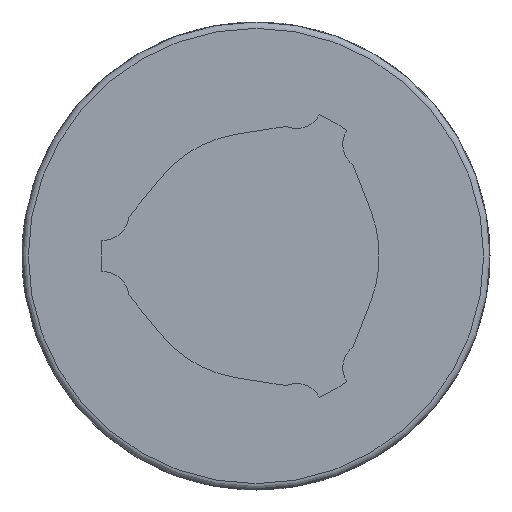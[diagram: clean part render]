
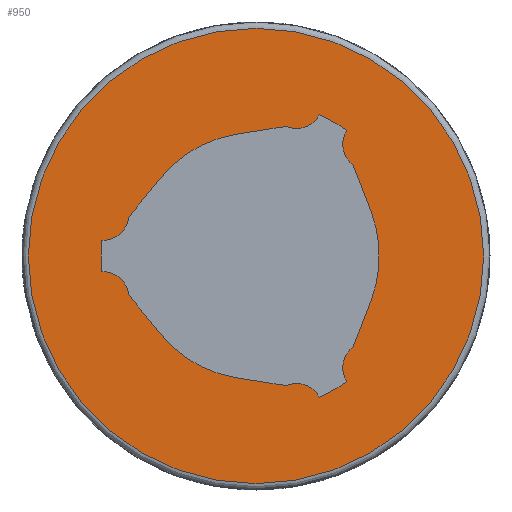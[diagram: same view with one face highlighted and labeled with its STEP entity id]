
A CAD part, left-side view. The second image highlights one B-rep face of the part: STEP entity #950.
In plain terms, the highlighted planar face has unit normal (-1, 0, 0).
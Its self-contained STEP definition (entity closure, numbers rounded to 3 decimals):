
#48=PLANE('',#1057);
#92=LINE('',#1550,#162);
#93=LINE('',#1559,#163);
#94=LINE('',#1563,#164);
#95=LINE('',#1571,#165);
#96=LINE('',#1575,#166);
#97=LINE('',#1583,#167);
#162=VECTOR('',#1255,1000.);
#163=VECTOR('',#1262,1000.);
#164=VECTOR('',#1265,1000.);
#165=VECTOR('',#1272,1000.);
#166=VECTOR('',#1275,1000.);
#167=VECTOR('',#1282,1000.);
#310=ORIENTED_EDGE('',*,*,#528,.F.);
#311=ORIENTED_EDGE('',*,*,#529,.T.);
#312=ORIENTED_EDGE('',*,*,#530,.F.);
#313=ORIENTED_EDGE('',*,*,#531,.T.);
#314=ORIENTED_EDGE('',*,*,#532,.F.);
#315=ORIENTED_EDGE('',*,*,#533,.T.);
#316=ORIENTED_EDGE('',*,*,#534,.T.);
#317=ORIENTED_EDGE('',*,*,#535,.T.);
#318=ORIENTED_EDGE('',*,*,#536,.F.);
#319=ORIENTED_EDGE('',*,*,#537,.T.);
#320=ORIENTED_EDGE('',*,*,#538,.F.);
#321=ORIENTED_EDGE('',*,*,#539,.T.);
#322=ORIENTED_EDGE('',*,*,#540,.T.);
#323=ORIENTED_EDGE('',*,*,#541,.T.);
#324=ORIENTED_EDGE('',*,*,#542,.F.);
#325=ORIENTED_EDGE('',*,*,#543,.T.);
#326=ORIENTED_EDGE('',*,*,#544,.F.);
#327=ORIENTED_EDGE('',*,*,#545,.T.);
#328=ORIENTED_EDGE('',*,*,#546,.T.);
#528=EDGE_CURVE('',#646,#646,#728,.T.);
#529=EDGE_CURVE('',#647,#648,#92,.T.);
#530=EDGE_CURVE('',#649,#648,#729,.T.);
#531=EDGE_CURVE('',#649,#650,#730,.T.);
#532=EDGE_CURVE('',#651,#650,#731,.T.);
#533=EDGE_CURVE('',#651,#652,#93,.T.);
#534=EDGE_CURVE('',#652,#653,#732,.T.);
#535=EDGE_CURVE('',#653,#654,#94,.T.);
#536=EDGE_CURVE('',#655,#654,#733,.T.);
#537=EDGE_CURVE('',#655,#656,#734,.T.);
#538=EDGE_CURVE('',#657,#656,#735,.T.);
#539=EDGE_CURVE('',#657,#658,#95,.T.);
#540=EDGE_CURVE('',#658,#659,#736,.T.);
#541=EDGE_CURVE('',#659,#660,#96,.T.);
#542=EDGE_CURVE('',#661,#660,#737,.T.);
#543=EDGE_CURVE('',#661,#662,#738,.T.);
#544=EDGE_CURVE('',#663,#662,#739,.T.);
#545=EDGE_CURVE('',#663,#664,#97,.T.);
#546=EDGE_CURVE('',#664,#647,#740,.T.);
#646=VERTEX_POINT('',#1549);
#647=VERTEX_POINT('',#1551);
#648=VERTEX_POINT('',#1552);
#649=VERTEX_POINT('',#1554);
#650=VERTEX_POINT('',#1556);
#651=VERTEX_POINT('',#1558);
#652=VERTEX_POINT('',#1560);
#653=VERTEX_POINT('',#1562);
#654=VERTEX_POINT('',#1564);
#655=VERTEX_POINT('',#1566);
#656=VERTEX_POINT('',#1568);
#657=VERTEX_POINT('',#1570);
#658=VERTEX_POINT('',#1572);
#659=VERTEX_POINT('',#1574);
#660=VERTEX_POINT('',#1576);
#661=VERTEX_POINT('',#1578);
#662=VERTEX_POINT('',#1580);
#663=VERTEX_POINT('',#1582);
#664=VERTEX_POINT('',#1584);
#728=CIRCLE('',#1058,18.);
#729=CIRCLE('',#1059,2.06);
#730=CIRCLE('',#1060,12.25);
#731=CIRCLE('',#1061,2.06);
#732=CIRCLE('',#1062,9.75);
#733=CIRCLE('',#1063,2.06);
#734=CIRCLE('',#1064,12.25);
#735=CIRCLE('',#1065,2.06);
#736=CIRCLE('',#1066,9.75);
#737=CIRCLE('',#1067,2.06);
#738=CIRCLE('',#1068,12.25);
#739=CIRCLE('',#1069,2.06);
#740=CIRCLE('',#1070,9.75);
#783=EDGE_LOOP('',(#310));
#784=EDGE_LOOP('',(#311,#312,#313,#314,#315,#316,#317,#318,#319,#320,#321,
#322,#323,#324,#325,#326,#327,#328));
#851=FACE_BOUND('',#783,.T.);
#852=FACE_BOUND('',#784,.T.);
#950=ADVANCED_FACE('',(#851,#852),#48,.F.);
#1057=AXIS2_PLACEMENT_3D('',#1547,#1251,#1252);
#1058=AXIS2_PLACEMENT_3D('',#1548,#1253,#1254);
#1059=AXIS2_PLACEMENT_3D('',#1553,#1256,#1257);
#1060=AXIS2_PLACEMENT_3D('',#1555,#1258,#1259);
#1061=AXIS2_PLACEMENT_3D('',#1557,#1260,#1261);
#1062=AXIS2_PLACEMENT_3D('',#1561,#1263,#1264);
#1063=AXIS2_PLACEMENT_3D('',#1565,#1266,#1267);
#1064=AXIS2_PLACEMENT_3D('',#1567,#1268,#1269);
#1065=AXIS2_PLACEMENT_3D('',#1569,#1270,#1271);
#1066=AXIS2_PLACEMENT_3D('',#1573,#1273,#1274);
#1067=AXIS2_PLACEMENT_3D('',#1577,#1276,#1277);
#1068=AXIS2_PLACEMENT_3D('',#1579,#1278,#1279);
#1069=AXIS2_PLACEMENT_3D('',#1581,#1280,#1281);
#1070=AXIS2_PLACEMENT_3D('',#1585,#1283,#1284);
#1251=DIRECTION('',(1.,0.,0.));
#1252=DIRECTION('',(0.,1.,0.));
#1253=DIRECTION('',(1.,0.,0.));
#1254=DIRECTION('',(0.,1.,0.));
#1255=DIRECTION('',(0.,-0.988,0.156));
#1256=DIRECTION('',(1.,0.,0.));
#1257=DIRECTION('',(0.,0.,-1.));
#1258=DIRECTION('',(1.,0.,0.));
#1259=DIRECTION('',(0.,0.,-1.));
#1260=DIRECTION('',(1.,0.,0.));
#1261=DIRECTION('',(0.,0.,-1.));
#1262=DIRECTION('',(0.,-0.358,-0.934));
#1263=DIRECTION('',(1.,0.,0.));
#1264=DIRECTION('',(0.,0.,-1.));
#1265=DIRECTION('',(0.,0.358,-0.934));
#1266=DIRECTION('',(1.,0.,0.));
#1267=DIRECTION('',(0.,0.,-1.));
#1268=DIRECTION('',(1.,0.,0.));
#1269=DIRECTION('',(0.,0.,-1.));
#1270=DIRECTION('',(1.,0.,0.));
#1271=DIRECTION('',(0.,0.,-1.));
#1272=DIRECTION('',(0.,0.988,0.156));
#1273=DIRECTION('',(1.,0.,0.));
#1274=DIRECTION('',(0.,0.,-1.));
#1275=DIRECTION('',(0.,0.629,0.777));
#1276=DIRECTION('',(1.,0.,0.));
#1277=DIRECTION('',(0.,0.,-1.));
#1278=DIRECTION('',(1.,0.,0.));
#1279=DIRECTION('',(0.,0.,-1.));
#1280=DIRECTION('',(1.,0.,0.));
#1281=DIRECTION('',(0.,0.,-1.));
#1282=DIRECTION('',(0.,-0.629,0.777));
#1283=DIRECTION('',(1.,0.,0.));
#1284=DIRECTION('',(0.,0.,-1.));
#1547=CARTESIAN_POINT('',(0.,0.,0.));
#1548=CARTESIAN_POINT('',(0.,0.,0.));
#1549=CARTESIAN_POINT('',(0.,18.,0.));
#1550=CARTESIAN_POINT('',(0.,1.525,9.63));
#1551=CARTESIAN_POINT('',(0.,1.525,9.63));
#1552=CARTESIAN_POINT('',(0.,-2.38,10.249));
#1553=CARTESIAN_POINT('',(0.,-3.198,12.139));
#1554=CARTESIAN_POINT('',(0.,-5.018,11.175));
#1555=CARTESIAN_POINT('',(0.,0.,0.));
#1556=CARTESIAN_POINT('',(0.,-7.169,9.933));
#1557=CARTESIAN_POINT('',(0.,-8.914,8.839));
#1558=CARTESIAN_POINT('',(0.,-7.685,7.185));
#1559=CARTESIAN_POINT('',(0.,-7.685,7.185));
#1560=CARTESIAN_POINT('',(0.,-9.102,3.494));
#1561=CARTESIAN_POINT('',(0.,0.,0.));
#1562=CARTESIAN_POINT('',(0.,-9.102,-3.494));
#1563=CARTESIAN_POINT('',(0.,-9.102,-3.494));
#1564=CARTESIAN_POINT('',(0.,-7.685,-7.185));
#1565=CARTESIAN_POINT('',(0.,-8.914,-8.839));
#1566=CARTESIAN_POINT('',(0.,-7.169,-9.933));
#1567=CARTESIAN_POINT('',(0.,0.,0.));
#1568=CARTESIAN_POINT('',(0.,-5.018,-11.175));
#1569=CARTESIAN_POINT('',(0.,-3.198,-12.139));
#1570=CARTESIAN_POINT('',(0.,-2.38,-10.249));
#1571=CARTESIAN_POINT('',(0.,-2.38,-10.249));
#1572=CARTESIAN_POINT('',(0.,1.525,-9.63));
#1573=CARTESIAN_POINT('',(0.,0.,0.));
#1574=CARTESIAN_POINT('',(0.,7.577,-6.136));
#1575=CARTESIAN_POINT('',(0.,7.577,-6.136));
#1576=CARTESIAN_POINT('',(0.,10.066,-3.063));
#1577=CARTESIAN_POINT('',(0.,12.112,-3.3));
#1578=CARTESIAN_POINT('',(0.,12.187,-1.242));
#1579=CARTESIAN_POINT('',(0.,0.,0.));
#1580=CARTESIAN_POINT('',(0.,12.187,1.242));
#1581=CARTESIAN_POINT('',(0.,12.112,3.3));
#1582=CARTESIAN_POINT('',(0.,10.066,3.063));
#1583=CARTESIAN_POINT('',(0.,10.066,3.063));
#1584=CARTESIAN_POINT('',(0.,7.577,6.136));
#1585=CARTESIAN_POINT('',(0.,0.,0.));
